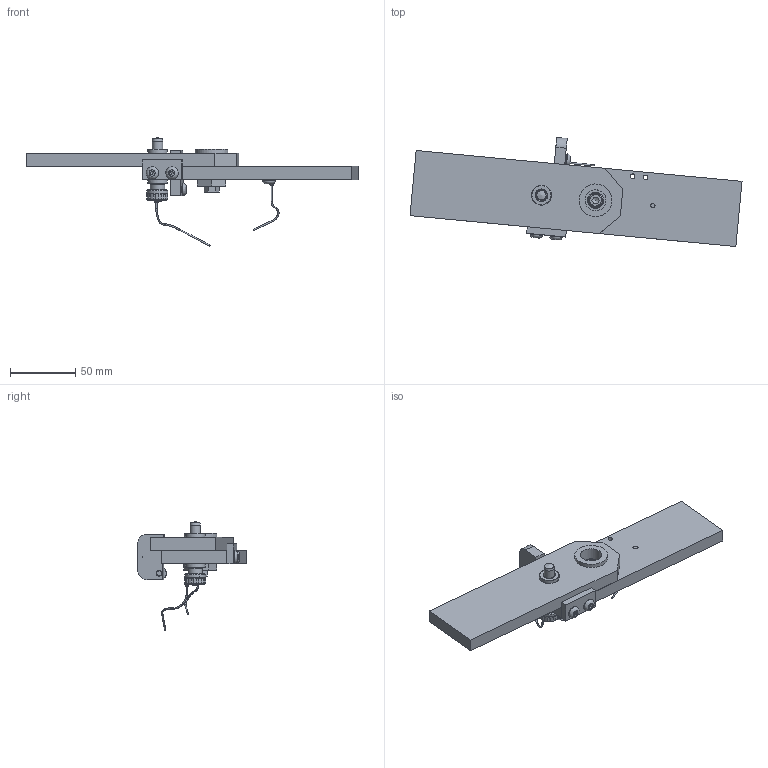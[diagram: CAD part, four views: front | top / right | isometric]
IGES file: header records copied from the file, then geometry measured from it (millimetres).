
Global section: file name: 01.00-P-sx; native system: Autodesk Inventor 2014; preprocessor: unknown; author: AP.to; date: 20150326.110253; units: millimetre
Bounding box: 253.59 x 83.23 x 83 mm (x, y, z)
Volume: 169536.2 mm3; surface area: 59504.5 mm2
Topology: 26 solids, 26 shells, 370 faces, 944 edges, 639 vertices
Faces by surface type: bspline 370
